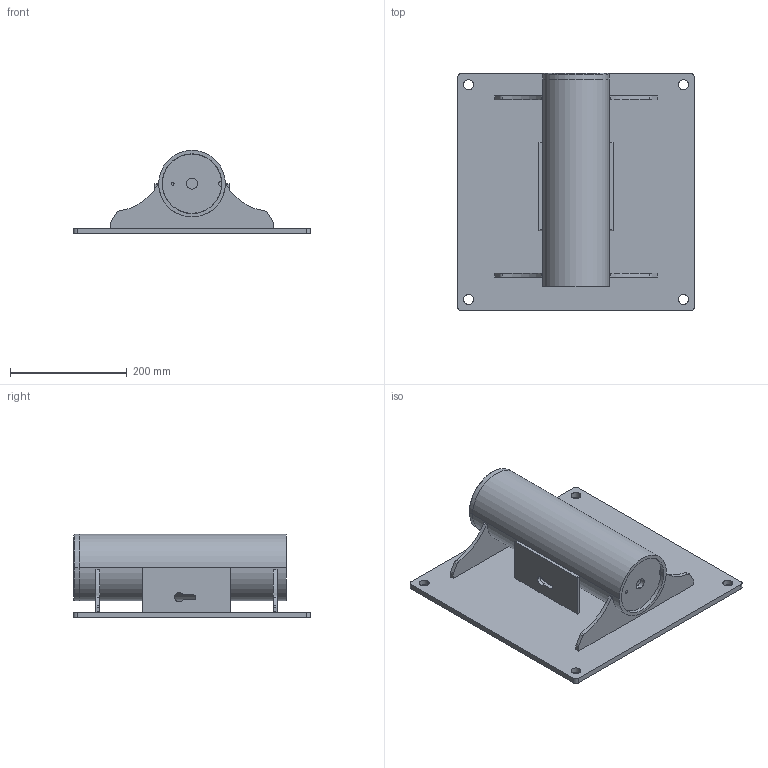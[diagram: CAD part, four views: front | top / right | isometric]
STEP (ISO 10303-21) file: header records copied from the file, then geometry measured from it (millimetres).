
FILE_DESCRIPTION (( 'STEP AP214' ), '1' );
FILE_NAME ('OZWALL1-SS.STEP', '2026-05-14T13:47:28', ( '' ), ( '' ), 'SwSTEP 2.0', 'SolidWorks 2023', '' );
FILE_SCHEMA (( 'AUTOMOTIVE_DESIGN' ));
Length unit declared in the file: inch
Products named in the file (11): 364-0080; 364-0282; OZWALL1-SS; 364-0000_NO BASE CAP; 364-0280; 360-0380; 364-0180; 360-0290; 362-0281; 364-0281; 390-0390
Assembly tree (12 placements, depth 4):
  OZWALL1-SS
    364-0000_NO BASE CAP
      364-0080
        364-0280
        364-0281  x2
        364-0180
        362-0281
        360-0380
        364-0282  x2
      390-0390
      360-0290
Bounding box: 406.4 x 406.4 x 142.88 mm (x, y, z)
Volume: 2827306.4 mm3; surface area: 795628.8 mm2
Topology: 10 solids, 10 shells, 224 faces, 598 edges, 396 vertices
Faces by surface type: plane 112, cylinder 104, cone 8
Entity records: 5447 total; most frequent: DIRECTION 929, CARTESIAN_POINT 877, ORIENTED_EDGE 842, EDGE_CURVE 421, AXIS2_PLACEMENT_3D 330, VERTEX_POINT 278, LINE 269, VECTOR 269
